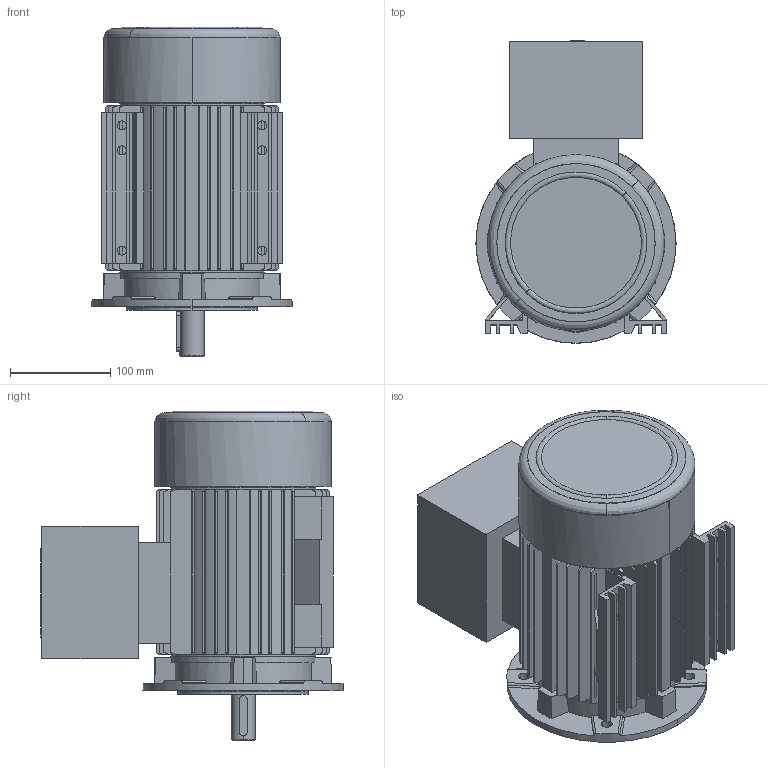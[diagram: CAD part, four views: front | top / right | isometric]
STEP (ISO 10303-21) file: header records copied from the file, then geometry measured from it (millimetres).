
FILE_DESCRIPTION (( 'STEP AP214' ), '1' );
FILE_NAME ('20.18392-E 5AT 90 B35 Exd STANDK.STEP', '2018-11-15T08:52:03', ( '' ), ( '' ), 'SwSTEP 2.0', 'SolidWorks 2018', '' );
FILE_SCHEMA (( 'AUTOMOTIVE_DESIGN' ));
Length unit declared in the file: millimetre
Products named in the file (1): 20.18392-E 5AT 90 B35 Exd STANDK
Bounding box: 199.9 x 301.95 x 329 mm (x, y, z)
Volume: 4096904.1 mm3; surface area: 784924.2 mm2
Topology: 4 solids, 12 shells, 834 faces, 2168 edges, 1405 vertices
Faces by surface type: plane 390, cylinder 231, cone 155, bspline 58
Entity records: 35585 total; most frequent: CARTESIAN_POINT 8370, ORIENTED_EDGE 4304, DIRECTION 4021, EDGE_CURVE 2152, AXIS2_PLACEMENT_3D 1454, VERTEX_POINT 1405, LINE 1113, VECTOR 1113
